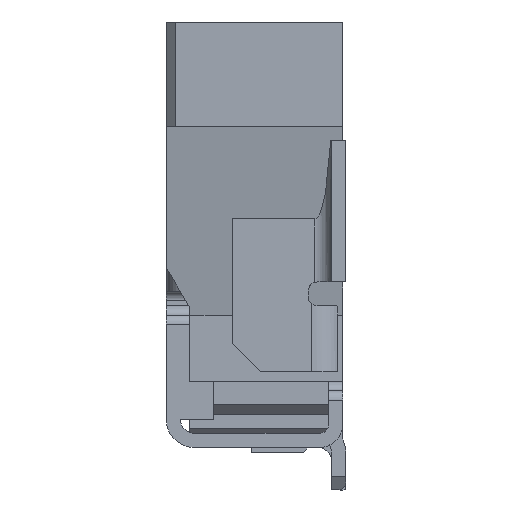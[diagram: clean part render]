
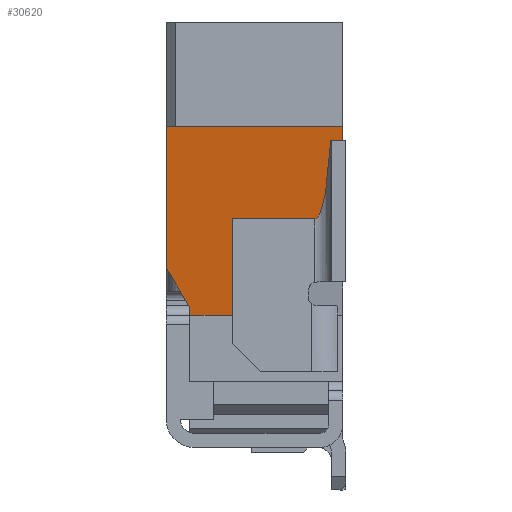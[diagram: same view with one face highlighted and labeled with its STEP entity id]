
A CAD part, left-side view. The second image highlights one B-rep face of the part: STEP entity #30620.
In plain terms, the highlighted planar face has unit normal (-0.989, 0, -0.146).
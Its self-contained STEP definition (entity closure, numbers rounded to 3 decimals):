
#5321 = DIRECTION ( 'NONE',  ( -0.146, 0., 0.989 ) ) ;
#5322 = VECTOR ( 'NONE', #5321, 1000. ) ;
#5323 = CARTESIAN_POINT ( 'NONE',  ( -12.385, 1.9, 1.875 ) ) ;
#5336 = LINE ( 'NONE', #5323, #5322 ) ;
#5581 = LINE ( 'NONE', #5598, #5594 ) ;
#5583 = CARTESIAN_POINT ( 'NONE',  ( -12.385, 1.9, 1.875 ) ) ;
#5594 = VECTOR ( 'NONE', #5597, 1000. ) ;
#5597 = DIRECTION ( 'NONE',  ( 0., 1., 0. ) ) ;
#5598 = CARTESIAN_POINT ( 'NONE',  ( -12.09, 1.25, -0.125 ) ) ;
#5629 = CARTESIAN_POINT ( 'NONE',  ( -12.164, 1.9, 0.375 ) ) ;
#5650 = DIRECTION ( 'NONE',  ( 0., 1., 0. ) ) ;
#5651 = VECTOR ( 'NONE', #5650, 1000. ) ;
#5652 = CARTESIAN_POINT ( 'NONE',  ( -12.385, 1.25, 1.875 ) ) ;
#5653 = LINE ( 'NONE', #5652, #5651 ) ;
#5841 = DIRECTION ( 'NONE',  ( -0.146, 0., 0.989 ) ) ;
#5842 = LINE ( 'NONE', #5859, #5858 ) ;
#5851 = CARTESIAN_POINT ( 'NONE',  ( -12.09, 1.65, -0.125 ) ) ;
#5858 = VECTOR ( 'NONE', #5841, 1000. ) ;
#5859 = CARTESIAN_POINT ( 'NONE',  ( -12.385, 1.65, 1.875 ) ) ;
#5877 = DIRECTION ( 'NONE',  ( -0.146, 0., 0.989 ) ) ;
#5878 = DIRECTION ( 'NONE',  ( -0.989, 0., -0.146 ) ) ;
#5881 = AXIS2_PLACEMENT_3D ( 'NONE', #5897, #5878, #5877 ) ;
#5886 = FACE_OUTER_BOUND ( 'NONE', #30609, .T. ) ;
#5892 = DIRECTION ( 'NONE',  ( -0.125, 0.51, 0.851 ) ) ;
#5893 = VECTOR ( 'NONE', #5892, 1000. ) ;
#5894 = LINE ( 'NONE', #5901, #5893 ) ;
#5896 = PLANE ( 'NONE',  #5881 ) ;
#5897 = CARTESIAN_POINT ( 'NONE',  ( -12.385, 1.25, 1.875 ) ) ;
#5901 = CARTESIAN_POINT ( 'NONE',  ( -12.286, 2.396, 1.202 ) ) ;
#5902 = CARTESIAN_POINT ( 'NONE',  ( -12.102, 1.65, -0.042 ) ) ;
#14983 = CARTESIAN_POINT ( 'NONE',  ( -12.363, 0.775, 1.725 ) ) ;
#14984 = CARTESIAN_POINT ( 'NONE',  ( -12.363, 0.159, 1.725 ) ) ;
#14989 = CARTESIAN_POINT ( 'NONE',  ( -12.363, 0.03, 1.725 ) ) ;
#15025 = DIRECTION ( 'NONE',  ( 0., 1., 0. ) ) ;
#15026 = VECTOR ( 'NONE', #15025, 1000. ) ;
#15027 = LINE ( 'NONE', #14983, #15026 ) ;
#15126 = CARTESIAN_POINT ( 'NONE',  ( -12.24, 0.33, 0.892 ) ) ;
#15152 = CARTESIAN_POINT ( 'NONE',  ( -12.24, 0.33, 0.892 ) ) ;
#15153 = CARTESIAN_POINT ( 'NONE',  ( -12.24, 0.25, 0.892 ) ) ;
#15154 = CARTESIAN_POINT ( 'NONE',  ( -12.287, 0.185, 1.21 ) ) ;
#15155 = CARTESIAN_POINT ( 'NONE',  ( -12.363, 0.159, 1.725 ) ) ;
#15159 =( BOUNDED_CURVE ( )  B_SPLINE_CURVE ( 3, ( #15155, #15154, #15153, #15152 ),
 .UNSPECIFIED., .F., .T. ) 
 B_SPLINE_CURVE_WITH_KNOTS ( ( 4, 4 ),
 ( 5.035, 6.283 ),
 .UNSPECIFIED. ) 
 CURVE ( )  GEOMETRIC_REPRESENTATION_ITEM ( )  RATIONAL_B_SPLINE_CURVE ( ( 1., 0.874, 0.874, 1. ) ) 
 REPRESENTATION_ITEM ( '' )  );
#15339 = CARTESIAN_POINT ( 'NONE',  ( -12.24, 1.2, 0.892 ) ) ;
#15464 = CARTESIAN_POINT ( 'NONE',  ( -12.09, 1.2, -0.125 ) ) ;
#15508 = DIRECTION ( 'NONE',  ( 0.146, 0., -0.989 ) ) ;
#15509 = VECTOR ( 'NONE', #15508, 1000. ) ;
#15510 = CARTESIAN_POINT ( 'NONE',  ( -11.829, 1.2, -1.896 ) ) ;
#15512 = LINE ( 'NONE', #15510, #15509 ) ;
#15626 = DIRECTION ( 'NONE',  ( 0., -1., 0. ) ) ;
#15634 = LINE ( 'NONE', #15636, #15642 ) ;
#15636 = CARTESIAN_POINT ( 'NONE',  ( -12.24, 0.59, 0.892 ) ) ;
#15642 = VECTOR ( 'NONE', #15626, 1000. ) ;
#20183 = EDGE_CURVE ( 'NONE', #56861, #20234, #41347, .T. ) ;
#20234 = VERTEX_POINT ( 'NONE', #41500 ) ;
#30418 = VERTEX_POINT ( 'NONE', #5583 ) ;
#30420 = EDGE_CURVE ( 'NONE', #30424, #30418, #5336, .T. ) ;
#30424 = VERTEX_POINT ( 'NONE', #5629 ) ;
#30448 = EDGE_CURVE ( 'NONE', #20234, #30418, #5653, .T. ) ;
#30590 = ORIENTED_EDGE ( 'NONE', *, *, #30610, .F. ) ;
#30591 = VERTEX_POINT ( 'NONE', #5851 ) ;
#30592 = ORIENTED_EDGE ( 'NONE', *, *, #20183, .T. ) ;
#30594 = ORIENTED_EDGE ( 'NONE', *, *, #30420, .F. ) ;
#30595 = EDGE_CURVE ( 'NONE', #30591, #30604, #5842, .T. ) ;
#30598 = ORIENTED_EDGE ( 'NONE', *, *, #30595, .F. ) ;
#30599 = EDGE_CURVE ( 'NONE', #57107, #30591, #5581, .T. ) ;
#30601 = ORIENTED_EDGE ( 'NONE', *, *, #30599, .F. ) ;
#30604 = VERTEX_POINT ( 'NONE', #5902 ) ;
#30609 = EDGE_LOOP ( 'NONE', ( #30613, #30619, #30621, #30624, #30592, #30622, #30594, #30590, #30598, #30601 ) ) ;
#30610 = EDGE_CURVE ( 'NONE', #30604, #30424, #5894, .T. ) ;
#30613 = ORIENTED_EDGE ( 'NONE', *, *, #57113, .F. ) ;
#30619 = ORIENTED_EDGE ( 'NONE', *, *, #57174, .T. ) ;
#30620 = ADVANCED_FACE ( 'NONE', ( #5886 ), #5896, .T. ) ;
#30621 = ORIENTED_EDGE ( 'NONE', *, *, #56942, .F. ) ;
#30622 = ORIENTED_EDGE ( 'NONE', *, *, #30448, .T. ) ;
#30624 = ORIENTED_EDGE ( 'NONE', *, *, #56866, .F. ) ;
#41329 = DIRECTION ( 'NONE',  ( -0.146, 0., 0.989 ) ) ;
#41330 = VECTOR ( 'NONE', #41329, 1000. ) ;
#41347 = LINE ( 'NONE', #41351, #41330 ) ;
#41351 = CARTESIAN_POINT ( 'NONE',  ( -12.385, 0.03, 1.875 ) ) ;
#41500 = CARTESIAN_POINT ( 'NONE',  ( -12.385, 0.03, 1.875 ) ) ;
#56861 = VERTEX_POINT ( 'NONE', #14989 ) ;
#56866 = EDGE_CURVE ( 'NONE', #56861, #56868, #15027, .T. ) ;
#56868 = VERTEX_POINT ( 'NONE', #14984 ) ;
#56942 = EDGE_CURVE ( 'NONE', #56868, #56948, #15159, .T. ) ;
#56948 = VERTEX_POINT ( 'NONE', #15126 ) ;
#57050 = VERTEX_POINT ( 'NONE', #15339 ) ;
#57107 = VERTEX_POINT ( 'NONE', #15464 ) ;
#57113 = EDGE_CURVE ( 'NONE', #57050, #57107, #15512, .T. ) ;
#57174 = EDGE_CURVE ( 'NONE', #57050, #56948, #15634, .T. ) ;
